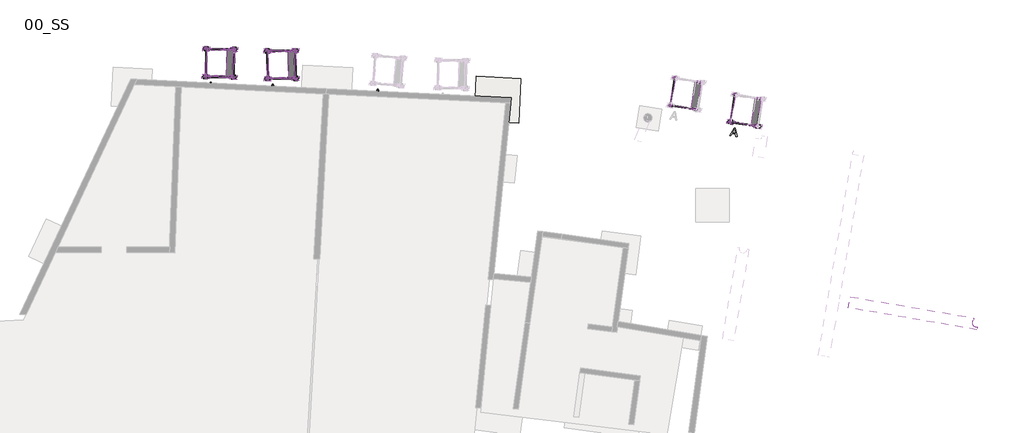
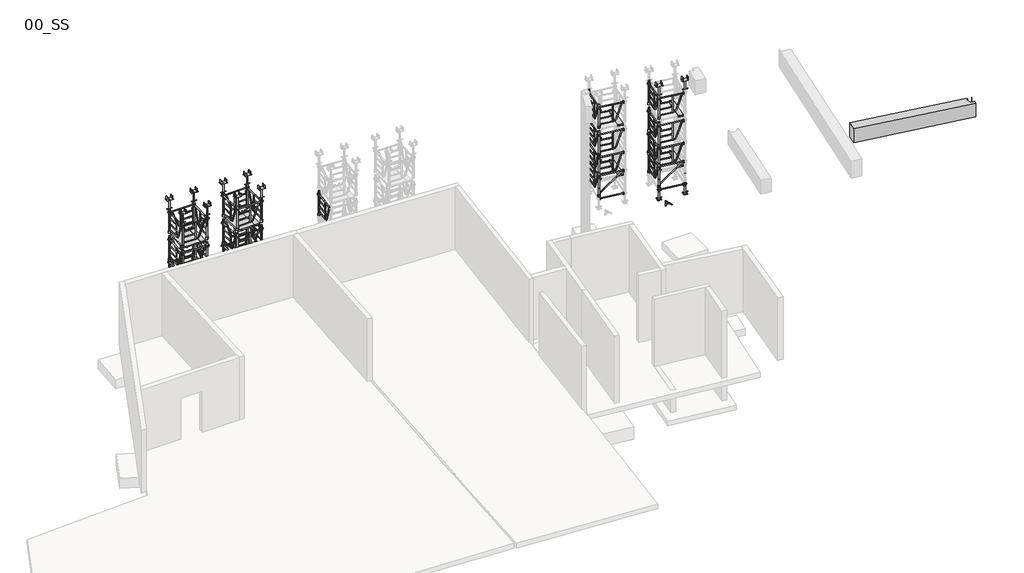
# One storey, part 3 of 4: 95 proxies, 1 beam, 1 slab.
"""IFC4 building model written with IfcOpenShell, lengths in millimetres."""

from ifc_helpers import new_model, si_unit, point, frame, frame_2d, origin, place, context, project, spatial, polyline, circle_curve, trimmed, segment, composite_curve, outline, extrude, transform, mapped, element, save
from components import specialty_equipment_552a99b2, specialty_equipment_3c7041e7, specialty_equipment_34e7ce4f, specialty_equipment_62a0565b, proxy_1_00m_e1a59707, proxy_1m_ea16eeb2, plancher_acier_0_25mx0_65m_c3080953, se_1_00mx1_00m_65cb5320

model = new_model("IFC4")

# Units and contexts
model_context = context("Model", 3, world=origin())
ifc_project = project(units=[si_unit("LENGTHUNIT", "METRE", prefix="MILLI")], contexts=[model_context])

# Site, building, storey
site = spatial("IfcSite", under=ifc_project)
building = spatial("IfcBuilding", under=site)
storey = spatial("IfcBuildingStorey", under=building, Name="00_SS", Elevation=18790.0)

# Beam
placement = place(None, origin())
element("IfcBeam", 1, ObjectType="Poutre_Rect_2013_JBE : 40x60ht", at=placement, inside=storey, context=model_context, shape_type="SweptSolid", body=[
    extrude(outline(composite_curve([segment(polyline([(23174.9182296, 8117.1072), (18565.8501525, 8907.7541322), (18633.4789682, 9301.9956106), (23045.3369678, 8545.1784115), (23071.6904398, 8497.1507794)]), True, "CONTINUOUS"), segment(trimmed(circle_curve(frame_2d((23153.3121622, 8371.3020828)), 150.0), [point((23071.6904398, 8497.1507794))], [point((23003.3121622, 8371.3020828))], True, "CARTESIAN"), True, "CONTINUOUS"), segment(trimmed(circle_curve(frame_2d((23153.3121622, 8371.3020828)), 150.0), [point((23003.3121622, 8371.3020828))], [point((23195.3612036, 8227.3163956))], True, "CARTESIAN"), True, "CONTINUOUS"), segment(polyline([(23195.3612036, 8227.3163956), (23174.9182296, 8117.1072)]), True, "CONTINUOUS")], self_intersect=False)), frame((0.0, 0.0, 23840.0), z_axis=(0.0, 0.0, 1.0), x_axis=(1.0, 0.0, 0.0)), (0.0, 0.0, 1.0), 600.0),
    extrude(outline(polyline([(23246.8050203, 8510.6182585), (23247.877437, 8510.4342944), (23247.632001, 8509.1111355), (23246.8050203, 8510.6182585)])), frame((0.0, 0.0, 23840.0), z_axis=(0.0, 0.0, 1.0), x_axis=(1.0, 0.0, 0.0)), (0.0, 0.0, 1.0), 600.0),
])

# Proxies
specialty_equipment_shape = specialty_equipment_552a99b2(model_context)
element("IfcBuildingElementProxy", 2, Name="MILLS_TOEC_CADRE_S : entree 1m", ObjectType="MILLS_TOEC_CADRE_S : entree 1m", at=placement, inside=storey, context=model_context, shape_type="MappedRepresentation", body=[
    mapped(specialty_equipment_shape, transform((15818.161755, 15343.9292714, 19371.6), x_axis=(0.987688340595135, -0.15643446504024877, 0.0), y_axis=(0.15643446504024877, 0.987688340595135, 0.0), z_axis=(0.0, 0.0, 1.0))),
])
element("IfcBuildingElementProxy", 3, Name="MILLS_TOEC_CADRE_S : entree 1m", ObjectType="MILLS_TOEC_CADRE_S : entree 1m", at=placement, inside=storey, context=model_context, shape_type="MappedRepresentation", body=[
    mapped(specialty_equipment_shape, transform((13662.8980879, 15937.50453, 19371.6), x_axis=(0.987688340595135, -0.15643446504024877, 0.0), y_axis=(0.15643446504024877, 0.987688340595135, 0.0), z_axis=(0.0, 0.0, 1.0))),
])
element("IfcBuildingElementProxy", 4, Name="MILLS_TOEC_CADRE_S : entree 1m", ObjectType="MILLS_TOEC_CADRE_S : entree 1m", at=placement, inside=storey, context=model_context, shape_type="MappedRepresentation", body=[
    mapped(specialty_equipment_shape, transform((-768.1071683, 17151.9537445, 19371.6), x_axis=(0.9999287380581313, 0.011938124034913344, 0.0), y_axis=(-0.011938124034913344, 0.9999287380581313, 0.0), z_axis=(0.0, 0.0, 1.0))),
])
element("IfcBuildingElementProxy", 5, Name="MILLS_TOEC_CADRE_S : entree 1m", ObjectType="MILLS_TOEC_CADRE_S : entree 1m", at=placement, inside=storey, context=model_context, shape_type="MappedRepresentation", body=[
    mapped(specialty_equipment_shape, transform((-2997.8105701, 17177.4940234, 19371.6), x_axis=(0.9997683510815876, -0.021523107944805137, 0.0), y_axis=(0.021523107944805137, 0.9997683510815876, 0.0), z_axis=(0.0, 0.0, 1.0))),
])
specialty_equipment_2_shape = specialty_equipment_3c7041e7(model_context)
element("IfcBuildingElementProxy", 6, Name="MILLS_TOEC_PLANCHER_TRAPPE_S : Trappe 1.0m", ObjectType="MILLS_TOEC_PLANCHER_TRAPPE_S : Trappe 1.0m", at=placement, inside=storey, context=model_context, shape_type="MappedRepresentation", body=[
    mapped(specialty_equipment_2_shape, transform((-2887.344941, 18127.2350135, 20033.6), x_axis=(-0.9999287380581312, -0.011938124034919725, 0.0), y_axis=(0.011938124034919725, -0.9999287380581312, 0.0), z_axis=(0.0, 0.0, 1.0))),
])
element("IfcBuildingElementProxy", 7, Name="MILLS_TOEC_PLANCHER_TRAPPE_S : Trappe 1.0m", ObjectType="MILLS_TOEC_PLANCHER_TRAPPE_S : Trappe 1.0m", at=placement, inside=storey, context=model_context, shape_type="MappedRepresentation", body=[
    mapped(specialty_equipment_2_shape, transform((-2887.344941, 18127.2350135, 22233.6), x_axis=(-0.9999287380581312, -0.011938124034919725, 0.0), y_axis=(0.011938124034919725, -0.9999287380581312, 0.0), z_axis=(0.0, 0.0, 1.0))),
])
element("IfcBuildingElementProxy", 8, Name="MILLS_TOEC_PLANCHER_TRAPPE_S : Trappe 1.0m", ObjectType="MILLS_TOEC_PLANCHER_TRAPPE_S : Trappe 1.0m", at=placement, inside=storey, context=model_context, shape_type="MappedRepresentation", body=[
    mapped(specialty_equipment_2_shape, transform((-5083.2319891, 18223.1324867, 20033.6), x_axis=(-0.9997683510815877, 0.021523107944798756, 0.0), y_axis=(-0.021523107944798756, -0.9997683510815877, 0.0), z_axis=(0.0, 0.0, 1.0))),
])
element("IfcBuildingElementProxy", 9, Name="MILLS_TOEC_PLANCHER_TRAPPE_S : Trappe 1.0m", ObjectType="MILLS_TOEC_PLANCHER_TRAPPE_S : Trappe 1.0m", at=placement, inside=storey, context=model_context, shape_type="MappedRepresentation", body=[
    mapped(specialty_equipment_2_shape, transform((-5083.2319891, 18223.1324867, 22233.6), x_axis=(-0.9997683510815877, 0.021523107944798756, 0.0), y_axis=(-0.021523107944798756, -0.9997683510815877, 0.0), z_axis=(0.0, 0.0, 1.0))),
])
specialty_equipment_3_shape = specialty_equipment_34e7ce4f(model_context)
element("IfcBuildingElementProxy", 10, Name="MILLS_TOEC_VERIN_DE_PIED_S : MILLS_TOEC_VERIN_DE_PIED", ObjectType="MILLS_TOEC_VERIN_DE_PIED_S : MILLS_TOEC_VERIN_DE_PIED", at=placement, inside=storey, context=model_context, shape_type="MappedRepresentation", body=[
    mapped(specialty_equipment_3_shape, transform((14434.6065663, 15563.5807533, 18790.0), x_axis=(0.987688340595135, -0.15643446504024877, 0.0), y_axis=(0.15643446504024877, 0.987688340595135, 0.0), z_axis=(0.0, 0.0, 1.0))),
])
element("IfcBuildingElementProxy", 11, Name="MILLS_TOEC_VERIN_DE_PIED_S : MILLS_TOEC_VERIN_DE_PIED", ObjectType="MILLS_TOEC_VERIN_DE_PIED_S : MILLS_TOEC_VERIN_DE_PIED", at=placement, inside=storey, context=model_context, shape_type="MappedRepresentation", body=[
    mapped(specialty_equipment_3_shape, transform((15422.2949069, 15407.1462883, 18790.0), x_axis=(0.987688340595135, -0.15643446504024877, 0.0), y_axis=(0.15643446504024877, 0.987688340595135, 0.0), z_axis=(0.0, 0.0, 1.0))),
])
element("IfcBuildingElementProxy", 12, Name="MILLS_TOEC_VERIN_DE_PIED_S : MILLS_TOEC_VERIN_DE_PIED", ObjectType="MILLS_TOEC_VERIN_DE_PIED_S : MILLS_TOEC_VERIN_DE_PIED", at=placement, inside=storey, context=model_context, shape_type="MappedRepresentation", body=[
    mapped(specialty_equipment_3_shape, transform((-2168.8958355, 17135.7412922, 18790.0), x_axis=(0.9999287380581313, 0.011938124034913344, 0.0), y_axis=(-0.011938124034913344, 0.9999287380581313, 0.0), z_axis=(0.0, 0.0, 1.0))),
])
element("IfcBuildingElementProxy", 13, Name="MILLS_TOEC_VERIN_DE_PIED_S : MILLS_TOEC_VERIN_DE_PIED", ObjectType="MILLS_TOEC_VERIN_DE_PIED_S : MILLS_TOEC_VERIN_DE_PIED", at=placement, inside=storey, context=model_context, shape_type="MappedRepresentation", body=[
    mapped(specialty_equipment_3_shape, transform((-1168.9670974, 17147.6794163, 18790.0), x_axis=(0.9999287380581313, 0.011938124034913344, 0.0), y_axis=(-0.011938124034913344, 0.9999287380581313, 0.0), z_axis=(0.0, 0.0, 1.0))),
])
element("IfcBuildingElementProxy", 14, Name="MILLS_TOEC_VERIN_DE_PIED_S : MILLS_TOEC_VERIN_DE_PIED", ObjectType="MILLS_TOEC_VERIN_DE_PIED_S : MILLS_TOEC_VERIN_DE_PIED", at=placement, inside=storey, context=model_context, shape_type="MappedRepresentation", body=[
    mapped(specialty_equipment_3_shape, transform((-2180.8339595, 18135.6700303, 18790.0), x_axis=(0.9999287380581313, 0.011938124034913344, 0.0), y_axis=(-0.011938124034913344, 0.9999287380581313, 0.0), z_axis=(0.0, 0.0, 1.0))),
])
element("IfcBuildingElementProxy", 15, Name="MILLS_TOEC_VERIN_DE_PIED_S : MILLS_TOEC_VERIN_DE_PIED", ObjectType="MILLS_TOEC_VERIN_DE_PIED_S : MILLS_TOEC_VERIN_DE_PIED", at=placement, inside=storey, context=model_context, shape_type="MappedRepresentation", body=[
    mapped(specialty_equipment_3_shape, transform((-1180.9052215, 18147.6081543, 18790.0), x_axis=(0.9999287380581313, 0.011938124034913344, 0.0), y_axis=(-0.011938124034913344, 0.9999287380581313, 0.0), z_axis=(0.0, 0.0, 1.0))),
])
element("IfcBuildingElementProxy", 16, Name="MILLS_TOEC_VERIN_DE_PIED_S : MILLS_TOEC_VERIN_DE_PIED", ObjectType="MILLS_TOEC_VERIN_DE_PIED_S : MILLS_TOEC_VERIN_DE_PIED", at=placement, inside=storey, context=model_context, shape_type="MappedRepresentation", body=[
    mapped(specialty_equipment_3_shape, transform((-4398.3574389, 17208.1567398, 18790.0), x_axis=(0.9997683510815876, -0.021523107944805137, 0.0), y_axis=(0.021523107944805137, 0.9997683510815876, 0.0), z_axis=(0.0, 0.0, 1.0))),
])
element("IfcBuildingElementProxy", 17, Name="MILLS_TOEC_VERIN_DE_PIED_S : MILLS_TOEC_VERIN_DE_PIED", ObjectType="MILLS_TOEC_VERIN_DE_PIED_S : MILLS_TOEC_VERIN_DE_PIED", at=placement, inside=storey, context=model_context, shape_type="MappedRepresentation", body=[
    mapped(specialty_equipment_3_shape, transform((-3398.5890878, 17186.6336318, 18790.0), x_axis=(0.9997683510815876, -0.021523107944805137, 0.0), y_axis=(0.021523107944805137, 0.9997683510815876, 0.0), z_axis=(0.0, 0.0, 1.0))),
])
element("IfcBuildingElementProxy", 18, Name="MILLS_TOEC_VERIN_DE_PIED_S : MILLS_TOEC_VERIN_DE_PIED", ObjectType="MILLS_TOEC_VERIN_DE_PIED_S : MILLS_TOEC_VERIN_DE_PIED", at=placement, inside=storey, context=model_context, shape_type="MappedRepresentation", body=[
    mapped(specialty_equipment_3_shape, transform((-4376.8343309, 18207.9250908, 18790.0), x_axis=(0.9997683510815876, -0.021523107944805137, 0.0), y_axis=(0.021523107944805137, 0.9997683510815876, 0.0), z_axis=(0.0, 0.0, 1.0))),
])
element("IfcBuildingElementProxy", 19, Name="MILLS_TOEC_VERIN_DE_PIED_S : MILLS_TOEC_VERIN_DE_PIED", ObjectType="MILLS_TOEC_VERIN_DE_PIED_S : MILLS_TOEC_VERIN_DE_PIED", at=placement, inside=storey, context=model_context, shape_type="MappedRepresentation", body=[
    mapped(specialty_equipment_3_shape, transform((-3377.0659798, 18186.4019829, 18790.0), x_axis=(0.9997683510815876, -0.021523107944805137, 0.0), y_axis=(0.021523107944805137, 0.9997683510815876, 0.0), z_axis=(0.0, 0.0, 1.0))),
])
specialty_equipment_4_shape = specialty_equipment_62a0565b(model_context)
element("IfcBuildingElementProxy", 20, Name="MILLS_TOEC_VERIN_DE_TETE_2_ENTREES_S : MILLS_TOEC_VERIN_DE_TETE_2_ENTREES_S", ObjectType="MILLS_TOEC_VERIN_DE_TETE_2_ENTREES_S : MILLS_TOEC_VERIN_DE_TETE_2_ENTREES_S", at=placement, inside=storey, context=model_context, shape_type="MappedRepresentation", body=[
    mapped(specialty_equipment_4_shape, transform((14434.6065663, 15563.5807533, 23532.0), x_axis=(0.987688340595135, -0.15643446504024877, 0.0), y_axis=(0.15643446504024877, 0.987688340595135, 0.0), z_axis=(0.0, 0.0, 1.0))),
])
element("IfcBuildingElementProxy", 21, Name="MILLS_TOEC_VERIN_DE_TETE_2_ENTREES_S : MILLS_TOEC_VERIN_DE_TETE_2_ENTREES_S", ObjectType="MILLS_TOEC_VERIN_DE_TETE_2_ENTREES_S : MILLS_TOEC_VERIN_DE_TETE_2_ENTREES_S", at=placement, inside=storey, context=model_context, shape_type="MappedRepresentation", body=[
    mapped(specialty_equipment_4_shape, transform((15422.2949069, 15407.1462883, 23532.0), x_axis=(0.987688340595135, -0.15643446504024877, 0.0), y_axis=(0.15643446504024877, 0.987688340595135, 0.0), z_axis=(0.0, 0.0, 1.0))),
])
element("IfcBuildingElementProxy", 22, Name="MILLS_TOEC_VERIN_DE_TETE_2_ENTREES_S : MILLS_TOEC_VERIN_DE_TETE_2_ENTREES_S", ObjectType="MILLS_TOEC_VERIN_DE_TETE_2_ENTREES_S : MILLS_TOEC_VERIN_DE_TETE_2_ENTREES_S", at=placement, inside=storey, context=model_context, shape_type="MappedRepresentation", body=[
    mapped(specialty_equipment_4_shape, transform((-2168.8958355, 17135.7412922, 23532.0), x_axis=(0.9999287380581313, 0.011938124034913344, 0.0), y_axis=(-0.011938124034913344, 0.9999287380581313, 0.0), z_axis=(0.0, 0.0, 1.0))),
])
element("IfcBuildingElementProxy", 23, Name="MILLS_TOEC_VERIN_DE_TETE_2_ENTREES_S : MILLS_TOEC_VERIN_DE_TETE_2_ENTREES_S", ObjectType="MILLS_TOEC_VERIN_DE_TETE_2_ENTREES_S : MILLS_TOEC_VERIN_DE_TETE_2_ENTREES_S", at=placement, inside=storey, context=model_context, shape_type="MappedRepresentation", body=[
    mapped(specialty_equipment_4_shape, transform((-1168.9670974, 17147.6794163, 23532.0), x_axis=(0.9999287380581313, 0.011938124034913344, 0.0), y_axis=(-0.011938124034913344, 0.9999287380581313, 0.0), z_axis=(0.0, 0.0, 1.0))),
])
element("IfcBuildingElementProxy", 24, Name="MILLS_TOEC_VERIN_DE_TETE_2_ENTREES_S : MILLS_TOEC_VERIN_DE_TETE_2_ENTREES_S", ObjectType="MILLS_TOEC_VERIN_DE_TETE_2_ENTREES_S : MILLS_TOEC_VERIN_DE_TETE_2_ENTREES_S", at=placement, inside=storey, context=model_context, shape_type="MappedRepresentation", body=[
    mapped(specialty_equipment_4_shape, transform((-2180.8339595, 18135.6700303, 23532.0), x_axis=(0.9999287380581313, 0.011938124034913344, 0.0), y_axis=(-0.011938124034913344, 0.9999287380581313, 0.0), z_axis=(0.0, 0.0, 1.0))),
])
element("IfcBuildingElementProxy", 25, Name="MILLS_TOEC_VERIN_DE_TETE_2_ENTREES_S : MILLS_TOEC_VERIN_DE_TETE_2_ENTREES_S", ObjectType="MILLS_TOEC_VERIN_DE_TETE_2_ENTREES_S : MILLS_TOEC_VERIN_DE_TETE_2_ENTREES_S", at=placement, inside=storey, context=model_context, shape_type="MappedRepresentation", body=[
    mapped(specialty_equipment_4_shape, transform((-1180.9052215, 18147.6081543, 23532.0), x_axis=(0.9999287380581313, 0.011938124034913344, 0.0), y_axis=(-0.011938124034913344, 0.9999287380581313, 0.0), z_axis=(0.0, 0.0, 1.0))),
])
element("IfcBuildingElementProxy", 26, Name="MILLS_TOEC_VERIN_DE_TETE_2_ENTREES_S : MILLS_TOEC_VERIN_DE_TETE_2_ENTREES_S", ObjectType="MILLS_TOEC_VERIN_DE_TETE_2_ENTREES_S : MILLS_TOEC_VERIN_DE_TETE_2_ENTREES_S", at=placement, inside=storey, context=model_context, shape_type="MappedRepresentation", body=[
    mapped(specialty_equipment_4_shape, transform((-4398.3574389, 17208.1567398, 23532.0), x_axis=(0.9997683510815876, -0.021523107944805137, 0.0), y_axis=(0.021523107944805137, 0.9997683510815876, 0.0), z_axis=(0.0, 0.0, 1.0))),
])
element("IfcBuildingElementProxy", 27, Name="MILLS_TOEC_VERIN_DE_TETE_2_ENTREES_S : MILLS_TOEC_VERIN_DE_TETE_2_ENTREES_S", ObjectType="MILLS_TOEC_VERIN_DE_TETE_2_ENTREES_S : MILLS_TOEC_VERIN_DE_TETE_2_ENTREES_S", at=placement, inside=storey, context=model_context, shape_type="MappedRepresentation", body=[
    mapped(specialty_equipment_4_shape, transform((-3398.5890878, 17186.6336318, 23532.0), x_axis=(0.9997683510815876, -0.021523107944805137, 0.0), y_axis=(0.021523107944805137, 0.9997683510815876, 0.0), z_axis=(0.0, 0.0, 1.0))),
])
element("IfcBuildingElementProxy", 28, Name="MILLS_TOEC_VERIN_DE_TETE_2_ENTREES_S : MILLS_TOEC_VERIN_DE_TETE_2_ENTREES_S", ObjectType="MILLS_TOEC_VERIN_DE_TETE_2_ENTREES_S : MILLS_TOEC_VERIN_DE_TETE_2_ENTREES_S", at=placement, inside=storey, context=model_context, shape_type="MappedRepresentation", body=[
    mapped(specialty_equipment_4_shape, transform((-4376.8343309, 18207.9250908, 23532.0), x_axis=(0.9997683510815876, -0.021523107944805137, 0.0), y_axis=(0.021523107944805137, 0.9997683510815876, 0.0), z_axis=(0.0, 0.0, 1.0))),
])
element("IfcBuildingElementProxy", 29, Name="MILLS_TOEC_VERIN_DE_TETE_2_ENTREES_S : MILLS_TOEC_VERIN_DE_TETE_2_ENTREES_S", ObjectType="MILLS_TOEC_VERIN_DE_TETE_2_ENTREES_S : MILLS_TOEC_VERIN_DE_TETE_2_ENTREES_S", at=placement, inside=storey, context=model_context, shape_type="MappedRepresentation", body=[
    mapped(specialty_equipment_4_shape, transform((-3377.0659798, 18186.4019829, 23532.0), x_axis=(0.9997683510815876, -0.021523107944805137, 0.0), y_axis=(0.021523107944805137, 0.9997683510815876, 0.0), z_axis=(0.0, 0.0, 1.0))),
])
proxy_1_00m_shape = proxy_1_00m_e1a59707(model_context)
element("IfcBuildingElementProxy", 30, Name="MILLS_TOEC_MOISE_S : 1.00m", ObjectType="MILLS_TOEC_MOISE_S : 1.00m", at=placement, inside=storey, context=model_context, shape_type="MappedRepresentation", body=[
    mapped(proxy_1_00m_shape, transform((15818.24177, 15344.434466, 19211.6), x_axis=(0.987688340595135, -0.15643446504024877, 0.0), y_axis=(0.15643446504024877, 0.987688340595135, 0.0), z_axis=(0.0, 0.0, 1.0))),
])
element("IfcBuildingElementProxy", 31, Name="MILLS_TOEC_MOISE_S : 1.00m", ObjectType="MILLS_TOEC_MOISE_S : 1.00m", at=placement, inside=storey, context=model_context, shape_type="MappedRepresentation", body=[
    mapped(proxy_1_00m_shape, transform((13662.9781029, 15938.0097247, 19211.6), x_axis=(0.987688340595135, -0.15643446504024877, 0.0), y_axis=(0.15643446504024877, 0.987688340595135, 0.0), z_axis=(0.0, 0.0, 1.0))),
])
element("IfcBuildingElementProxy", 32, Name="MILLS_TOEC_MOISE_S : 1.00m", ObjectType="MILLS_TOEC_MOISE_S : 1.00m", at=placement, inside=storey, context=model_context, shape_type="MappedRepresentation", body=[
    mapped(proxy_1_00m_shape, transform((-768.1132745, 17152.4652, 19211.6), x_axis=(0.9999287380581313, 0.011938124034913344, 0.0), y_axis=(-0.011938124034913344, 0.9999287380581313, 0.0), z_axis=(0.0, 0.0, 1.0))),
])
element("IfcBuildingElementProxy", 33, Name="MILLS_TOEC_MOISE_S : 1.00m", ObjectType="MILLS_TOEC_MOISE_S : 1.00m", at=placement, inside=storey, context=model_context, shape_type="MappedRepresentation", body=[
    mapped(proxy_1_00m_shape, transform((-780.0513986, 18152.393938, 19211.6), x_axis=(0.9999287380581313, 0.011938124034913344, 0.0), y_axis=(-0.011938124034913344, 0.9999287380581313, 0.0), z_axis=(0.0, 0.0, 1.0))),
])
element("IfcBuildingElementProxy", 34, Name="MILLS_TOEC_MOISE_S : 1.00m", ObjectType="MILLS_TOEC_MOISE_S : 1.00m", at=placement, inside=storey, context=model_context, shape_type="MappedRepresentation", body=[
    mapped(proxy_1_00m_shape, transform((-2292.5210213, 18640.9026636, 19211.6), x_axis=(-0.011938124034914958, 0.9999287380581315, 0.0), y_axis=(-0.9999287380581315, -0.011938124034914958, 0.0), z_axis=(0.0, 0.0, 1.0))),
])
element("IfcBuildingElementProxy", 35, Name="MILLS_TOEC_MOISE_S : 1.00m", ObjectType="MILLS_TOEC_MOISE_S : 1.00m", at=placement, inside=storey, context=model_context, shape_type="MappedRepresentation", body=[
    mapped(proxy_1_00m_shape, transform((-1292.5922833, 18652.8407876, 19211.6), x_axis=(-0.011938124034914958, 0.9999287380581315, 0.0), y_axis=(-0.9999287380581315, -0.011938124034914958, 0.0), z_axis=(0.0, 0.0, 1.0))),
])
element("IfcBuildingElementProxy", 36, Name="MILLS_TOEC_MOISE_S : 1.00m", ObjectType="MILLS_TOEC_MOISE_S : 1.00m", at=placement, inside=storey, context=model_context, shape_type="MappedRepresentation", body=[
    mapped(proxy_1_00m_shape, transform((-2997.7995612, 17178.0053968, 19211.6), x_axis=(0.9997683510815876, -0.021523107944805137, 0.0), y_axis=(0.021523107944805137, 0.9997683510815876, 0.0), z_axis=(0.0, 0.0, 1.0))),
])
element("IfcBuildingElementProxy", 37, Name="MILLS_TOEC_MOISE_S : 1.00m", ObjectType="MILLS_TOEC_MOISE_S : 1.00m", at=placement, inside=storey, context=model_context, shape_type="MappedRepresentation", body=[
    mapped(proxy_1_00m_shape, transform((-2976.2764532, 18177.7737479, 19211.6), x_axis=(0.9997683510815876, -0.021523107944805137, 0.0), y_axis=(0.021523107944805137, 0.9997683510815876, 0.0), z_axis=(0.0, 0.0, 1.0))),
])
element("IfcBuildingElementProxy", 38, Name="MILLS_TOEC_MOISE_S : 1.00m", ObjectType="MILLS_TOEC_MOISE_S : 1.00m", at=placement, inside=storey, context=model_context, shape_type="MappedRepresentation", body=[
    mapped(proxy_1_00m_shape, transform((-4471.5553316, 18716.6115813, 19211.6), x_axis=(0.02152310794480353, 0.9997683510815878, 0.0), y_axis=(-0.9997683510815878, 0.02152310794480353, 0.0), z_axis=(0.0, 0.0, 1.0))),
])
element("IfcBuildingElementProxy", 39, Name="MILLS_TOEC_MOISE_S : 1.00m", ObjectType="MILLS_TOEC_MOISE_S : 1.00m", at=placement, inside=storey, context=model_context, shape_type="MappedRepresentation", body=[
    mapped(proxy_1_00m_shape, transform((-3471.7869805, 18695.0884734, 19211.6), x_axis=(0.02152310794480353, 0.9997683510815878, 0.0), y_axis=(-0.9997683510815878, 0.02152310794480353, 0.0), z_axis=(0.0, 0.0, 1.0))),
])
proxy_1m_shape = proxy_1m_ea16eeb2(model_context)
element("IfcBuildingElementProxy", 40, Name="MILLS_TOEC_CADRE_S : 1m", ObjectType="MILLS_TOEC_CADRE_S : 1m", at=placement, inside=storey, context=model_context, shape_type="MappedRepresentation", body=[
    mapped(proxy_1m_shape, transform((15818.161755, 15343.9292714, 21171.6), x_axis=(0.987688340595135, -0.15643446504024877, 0.0), y_axis=(0.15643446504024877, 0.987688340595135, 0.0), z_axis=(0.0, 0.0, 1.0))),
])
element("IfcBuildingElementProxy", 41, Name="MILLS_TOEC_CADRE_S : 1m", ObjectType="MILLS_TOEC_CADRE_S : 1m", at=placement, inside=storey, context=model_context, shape_type="MappedRepresentation", body=[
    mapped(proxy_1m_shape, transform((14250.5157518, 15079.8939508, 21171.6), x_axis=(-0.15643446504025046, -0.9876883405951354, 0.0), y_axis=(0.9876883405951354, -0.15643446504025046, 0.0), z_axis=(0.0, 0.0, 1.0))),
])
element("IfcBuildingElementProxy", 42, Name="MILLS_TOEC_CADRE_S : 1m", ObjectType="MILLS_TOEC_CADRE_S : 1m", at=placement, inside=storey, context=model_context, shape_type="MappedRepresentation", body=[
    mapped(proxy_1m_shape, transform((15818.161755, 15343.9292714, 20171.6), x_axis=(0.987688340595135, -0.15643446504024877, 0.0), y_axis=(0.15643446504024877, 0.987688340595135, 0.0), z_axis=(0.0, 0.0, 1.0))),
])
element("IfcBuildingElementProxy", 43, Name="MILLS_TOEC_CADRE_S : 1m", ObjectType="MILLS_TOEC_CADRE_S : 1m", at=placement, inside=storey, context=model_context, shape_type="MappedRepresentation", body=[
    mapped(proxy_1m_shape, transform((14250.5157518, 15079.8939508, 20171.6), x_axis=(-0.15643446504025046, -0.9876883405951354, 0.0), y_axis=(0.9876883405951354, -0.15643446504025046, 0.0), z_axis=(0.0, 0.0, 1.0))),
])
element("IfcBuildingElementProxy", 44, Name="MILLS_TOEC_CADRE_S : 1m", ObjectType="MILLS_TOEC_CADRE_S : 1m", at=placement, inside=storey, context=model_context, shape_type="MappedRepresentation", body=[
    mapped(proxy_1m_shape, transform((14250.5157518, 15079.8939508, 19371.6), x_axis=(-0.15643446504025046, -0.9876883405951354, 0.0), y_axis=(0.9876883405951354, -0.15643446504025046, 0.0), z_axis=(0.0, 0.0, 1.0))),
])
element("IfcBuildingElementProxy", 45, Name="MILLS_TOEC_CADRE_S : 1m", ObjectType="MILLS_TOEC_CADRE_S : 1m", at=placement, inside=storey, context=model_context, shape_type="MappedRepresentation", body=[
    mapped(proxy_1m_shape, transform((15818.161755, 15343.9292714, 22371.6), x_axis=(0.987688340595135, -0.15643446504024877, 0.0), y_axis=(0.15643446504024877, 0.987688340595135, 0.0), z_axis=(0.0, 0.0, 1.0))),
])
element("IfcBuildingElementProxy", 46, Name="MILLS_TOEC_CADRE_S : 1m", ObjectType="MILLS_TOEC_CADRE_S : 1m", at=placement, inside=storey, context=model_context, shape_type="MappedRepresentation", body=[
    mapped(proxy_1m_shape, transform((14250.5157518, 15079.8939508, 22371.6), x_axis=(-0.15643446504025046, -0.9876883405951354, 0.0), y_axis=(0.9876883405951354, -0.15643446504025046, 0.0), z_axis=(0.0, 0.0, 1.0))),
])
element("IfcBuildingElementProxy", 47, Name="MILLS_TOEC_CADRE_S : 1m", ObjectType="MILLS_TOEC_CADRE_S : 1m", at=placement, inside=storey, context=model_context, shape_type="MappedRepresentation", body=[
    mapped(proxy_1m_shape, transform((13662.8980879, 15937.50453, 21171.6), x_axis=(0.987688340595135, -0.15643446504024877, 0.0), y_axis=(0.15643446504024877, 0.987688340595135, 0.0), z_axis=(0.0, 0.0, 1.0))),
])
element("IfcBuildingElementProxy", 48, Name="MILLS_TOEC_CADRE_S : 1m", ObjectType="MILLS_TOEC_CADRE_S : 1m", at=placement, inside=storey, context=model_context, shape_type="MappedRepresentation", body=[
    mapped(proxy_1m_shape, transform((12095.2520847, 15673.4692095, 21171.6), x_axis=(-0.15643446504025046, -0.9876883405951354, 0.0), y_axis=(0.9876883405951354, -0.15643446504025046, 0.0), z_axis=(0.0, 0.0, 1.0))),
])
element("IfcBuildingElementProxy", 49, Name="MILLS_TOEC_CADRE_S : 1m", ObjectType="MILLS_TOEC_CADRE_S : 1m", at=placement, inside=storey, context=model_context, shape_type="MappedRepresentation", body=[
    mapped(proxy_1m_shape, transform((13662.8980879, 15937.50453, 20171.6), x_axis=(0.987688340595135, -0.15643446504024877, 0.0), y_axis=(0.15643446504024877, 0.987688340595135, 0.0), z_axis=(0.0, 0.0, 1.0))),
])
element("IfcBuildingElementProxy", 50, Name="MILLS_TOEC_CADRE_S : 1m", ObjectType="MILLS_TOEC_CADRE_S : 1m", at=placement, inside=storey, context=model_context, shape_type="MappedRepresentation", body=[
    mapped(proxy_1m_shape, transform((12095.2520847, 15673.4692095, 20171.6), x_axis=(-0.15643446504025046, -0.9876883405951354, 0.0), y_axis=(0.9876883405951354, -0.15643446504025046, 0.0), z_axis=(0.0, 0.0, 1.0))),
])
element("IfcBuildingElementProxy", 51, Name="MILLS_TOEC_CADRE_S : 1m", ObjectType="MILLS_TOEC_CADRE_S : 1m", at=placement, inside=storey, context=model_context, shape_type="MappedRepresentation", body=[
    mapped(proxy_1m_shape, transform((12095.2520847, 15673.4692095, 19371.6), x_axis=(-0.15643446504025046, -0.9876883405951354, 0.0), y_axis=(0.9876883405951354, -0.15643446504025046, 0.0), z_axis=(0.0, 0.0, 1.0))),
])
element("IfcBuildingElementProxy", 52, Name="MILLS_TOEC_CADRE_S : 1m", ObjectType="MILLS_TOEC_CADRE_S : 1m", at=placement, inside=storey, context=model_context, shape_type="MappedRepresentation", body=[
    mapped(proxy_1m_shape, transform((13662.8980879, 15937.50453, 22371.6), x_axis=(0.987688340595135, -0.15643446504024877, 0.0), y_axis=(0.15643446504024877, 0.987688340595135, 0.0), z_axis=(0.0, 0.0, 1.0))),
])
element("IfcBuildingElementProxy", 53, Name="MILLS_TOEC_CADRE_S : 1m", ObjectType="MILLS_TOEC_CADRE_S : 1m", at=placement, inside=storey, context=model_context, shape_type="MappedRepresentation", body=[
    mapped(proxy_1m_shape, transform((12095.2520847, 15673.4692095, 22371.6), x_axis=(-0.15643446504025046, -0.9876883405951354, 0.0), y_axis=(0.9876883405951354, -0.15643446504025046, 0.0), z_axis=(0.0, 0.0, 1.0))),
])
element("IfcBuildingElementProxy", 54, Name="MILLS_TOEC_CADRE_S : 1m", ObjectType="MILLS_TOEC_CADRE_S : 1m", at=placement, inside=storey, context=model_context, shape_type="MappedRepresentation", body=[
    mapped(proxy_1m_shape, transform((1457.5325625, 16465.6963923, 21171.6), x_axis=(-0.08715574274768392, -0.9961946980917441, 0.0), y_axis=(0.9961946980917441, -0.08715574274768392, 0.0), z_axis=(0.0, 0.0, 1.0))),
])
element("IfcBuildingElementProxy", 55, Name="MILLS_TOEC_CADRE_S : 1m", ObjectType="MILLS_TOEC_CADRE_S : 1m", at=placement, inside=storey, context=model_context, shape_type="MappedRepresentation", body=[
    mapped(proxy_1m_shape, transform((-768.1071683, 17151.9537445, 21171.6), x_axis=(0.9999287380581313, 0.011938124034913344, 0.0), y_axis=(-0.011938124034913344, 0.9999287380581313, 0.0), z_axis=(0.0, 0.0, 1.0))),
])
element("IfcBuildingElementProxy", 56, Name="MILLS_TOEC_CADRE_S : 1m", ObjectType="MILLS_TOEC_CADRE_S : 1m", at=placement, inside=storey, context=model_context, shape_type="MappedRepresentation", body=[
    mapped(proxy_1m_shape, transform((-1292.0808278, 18652.8468939, 21171.6), x_axis=(-0.011938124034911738, 0.9999287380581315, 0.0), y_axis=(-0.9999287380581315, -0.011938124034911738, 0.0), z_axis=(0.0, 0.0, 1.0))),
])
element("IfcBuildingElementProxy", 57, Name="MILLS_TOEC_CADRE_S : 1m", ObjectType="MILLS_TOEC_CADRE_S : 1m", at=placement, inside=storey, context=model_context, shape_type="MappedRepresentation", body=[
    mapped(proxy_1m_shape, transform((-2792.9739772, 18128.8732344, 21171.6), x_axis=(-0.9999287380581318, -0.01193812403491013, 0.0), y_axis=(0.01193812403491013, -0.9999287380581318, 0.0), z_axis=(0.0, 0.0, 1.0))),
])
element("IfcBuildingElementProxy", 58, Name="MILLS_TOEC_CADRE_S : 1m", ObjectType="MILLS_TOEC_CADRE_S : 1m", at=placement, inside=storey, context=model_context, shape_type="MappedRepresentation", body=[
    mapped(proxy_1m_shape, transform((-2269.0003177, 16627.980085, 21171.6), x_axis=(0.011938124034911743, -0.999928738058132, 0.0), y_axis=(0.999928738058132, 0.011938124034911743, 0.0), z_axis=(0.0, 0.0, 1.0))),
])
element("IfcBuildingElementProxy", 59, Name="MILLS_TOEC_CADRE_S : 1m", ObjectType="MILLS_TOEC_CADRE_S : 1m", at=placement, inside=storey, context=model_context, shape_type="MappedRepresentation", body=[
    mapped(proxy_1m_shape, transform((-768.1071683, 17151.9537445, 20171.6), x_axis=(0.9999287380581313, 0.011938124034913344, 0.0), y_axis=(-0.011938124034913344, 0.9999287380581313, 0.0), z_axis=(0.0, 0.0, 1.0))),
])
element("IfcBuildingElementProxy", 60, Name="MILLS_TOEC_CADRE_S : 1m", ObjectType="MILLS_TOEC_CADRE_S : 1m", at=placement, inside=storey, context=model_context, shape_type="MappedRepresentation", body=[
    mapped(proxy_1m_shape, transform((-1292.0808278, 18652.8468939, 20171.6), x_axis=(-0.011938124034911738, 0.9999287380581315, 0.0), y_axis=(-0.9999287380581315, -0.011938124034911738, 0.0), z_axis=(0.0, 0.0, 1.0))),
])
element("IfcBuildingElementProxy", 61, Name="MILLS_TOEC_CADRE_S : 1m", ObjectType="MILLS_TOEC_CADRE_S : 1m", at=placement, inside=storey, context=model_context, shape_type="MappedRepresentation", body=[
    mapped(proxy_1m_shape, transform((-2792.9739772, 18128.8732344, 20171.6), x_axis=(-0.9999287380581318, -0.01193812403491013, 0.0), y_axis=(0.01193812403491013, -0.9999287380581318, 0.0), z_axis=(0.0, 0.0, 1.0))),
])
element("IfcBuildingElementProxy", 62, Name="MILLS_TOEC_CADRE_S : 1m", ObjectType="MILLS_TOEC_CADRE_S : 1m", at=placement, inside=storey, context=model_context, shape_type="MappedRepresentation", body=[
    mapped(proxy_1m_shape, transform((-2269.0003177, 16627.980085, 20171.6), x_axis=(0.011938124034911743, -0.999928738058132, 0.0), y_axis=(0.999928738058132, 0.011938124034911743, 0.0), z_axis=(0.0, 0.0, 1.0))),
])
element("IfcBuildingElementProxy", 63, Name="MILLS_TOEC_CADRE_S : 1m", ObjectType="MILLS_TOEC_CADRE_S : 1m", at=placement, inside=storey, context=model_context, shape_type="MappedRepresentation", body=[
    mapped(proxy_1m_shape, transform((-1292.0808278, 18652.8468939, 19371.6), x_axis=(-0.011938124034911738, 0.9999287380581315, 0.0), y_axis=(-0.9999287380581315, -0.011938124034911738, 0.0), z_axis=(0.0, 0.0, 1.0))),
])
element("IfcBuildingElementProxy", 64, Name="MILLS_TOEC_CADRE_S : 1m", ObjectType="MILLS_TOEC_CADRE_S : 1m", at=placement, inside=storey, context=model_context, shape_type="MappedRepresentation", body=[
    mapped(proxy_1m_shape, transform((-2792.9739772, 18128.8732344, 19371.6), x_axis=(-0.9999287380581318, -0.01193812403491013, 0.0), y_axis=(0.01193812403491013, -0.9999287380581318, 0.0), z_axis=(0.0, 0.0, 1.0))),
])
element("IfcBuildingElementProxy", 65, Name="MILLS_TOEC_CADRE_S : 1m", ObjectType="MILLS_TOEC_CADRE_S : 1m", at=placement, inside=storey, context=model_context, shape_type="MappedRepresentation", body=[
    mapped(proxy_1m_shape, transform((-2269.0003177, 16627.980085, 19371.6), x_axis=(0.011938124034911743, -0.999928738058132, 0.0), y_axis=(0.999928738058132, 0.011938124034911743, 0.0), z_axis=(0.0, 0.0, 1.0))),
])
element("IfcBuildingElementProxy", 66, Name="MILLS_TOEC_CADRE_S : 1m", ObjectType="MILLS_TOEC_CADRE_S : 1m", at=placement, inside=storey, context=model_context, shape_type="MappedRepresentation", body=[
    mapped(proxy_1m_shape, transform((-768.1071683, 17151.9537445, 22371.6), x_axis=(0.9999287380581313, 0.011938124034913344, 0.0), y_axis=(-0.011938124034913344, 0.9999287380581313, 0.0), z_axis=(0.0, 0.0, 1.0))),
])
element("IfcBuildingElementProxy", 67, Name="MILLS_TOEC_CADRE_S : 1m", ObjectType="MILLS_TOEC_CADRE_S : 1m", at=placement, inside=storey, context=model_context, shape_type="MappedRepresentation", body=[
    mapped(proxy_1m_shape, transform((-1292.0808278, 18652.8468939, 22371.6), x_axis=(-0.011938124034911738, 0.9999287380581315, 0.0), y_axis=(-0.9999287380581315, -0.011938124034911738, 0.0), z_axis=(0.0, 0.0, 1.0))),
])
element("IfcBuildingElementProxy", 68, Name="MILLS_TOEC_CADRE_S : 1m", ObjectType="MILLS_TOEC_CADRE_S : 1m", at=placement, inside=storey, context=model_context, shape_type="MappedRepresentation", body=[
    mapped(proxy_1m_shape, transform((-2792.9739772, 18128.8732344, 22371.6), x_axis=(-0.9999287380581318, -0.01193812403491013, 0.0), y_axis=(0.01193812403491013, -0.9999287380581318, 0.0), z_axis=(0.0, 0.0, 1.0))),
])
element("IfcBuildingElementProxy", 69, Name="MILLS_TOEC_CADRE_S : 1m", ObjectType="MILLS_TOEC_CADRE_S : 1m", at=placement, inside=storey, context=model_context, shape_type="MappedRepresentation", body=[
    mapped(proxy_1m_shape, transform((-2269.0003177, 16627.980085, 22371.6), x_axis=(0.011938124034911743, -0.999928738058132, 0.0), y_axis=(0.999928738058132, 0.011938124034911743, 0.0), z_axis=(0.0, 0.0, 1.0))),
])
element("IfcBuildingElementProxy", 70, Name="MILLS_TOEC_CADRE_S : 1m", ObjectType="MILLS_TOEC_CADRE_S : 1m", at=placement, inside=storey, context=model_context, shape_type="MappedRepresentation", body=[
    mapped(proxy_1m_shape, transform((-2997.8105701, 17177.4940234, 21171.6), x_axis=(0.9997683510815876, -0.021523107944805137, 0.0), y_axis=(0.021523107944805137, 0.9997683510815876, 0.0), z_axis=(0.0, 0.0, 1.0))),
])
element("IfcBuildingElementProxy", 71, Name="MILLS_TOEC_CADRE_S : 1m", ObjectType="MILLS_TOEC_CADRE_S : 1m", at=placement, inside=storey, context=model_context, shape_type="MappedRepresentation", body=[
    mapped(proxy_1m_shape, transform((-3471.2756071, 18695.0774645, 21171.6), x_axis=(0.02152310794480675, 0.9997683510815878, 0.0), y_axis=(-0.9997683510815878, 0.02152310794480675, 0.0), z_axis=(0.0, 0.0, 1.0))),
])
element("IfcBuildingElementProxy", 72, Name="MILLS_TOEC_CADRE_S : 1m", ObjectType="MILLS_TOEC_CADRE_S : 1m", at=placement, inside=storey, context=model_context, shape_type="MappedRepresentation", body=[
    mapped(proxy_1m_shape, transform((-4988.8590481, 18221.6124275, 21171.6), x_axis=(-0.9997683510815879, 0.021523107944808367, 0.0), y_axis=(-0.021523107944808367, -0.9997683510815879, 0.0), z_axis=(0.0, 0.0, 1.0))),
])
element("IfcBuildingElementProxy", 73, Name="MILLS_TOEC_CADRE_S : 1m", ObjectType="MILLS_TOEC_CADRE_S : 1m", at=placement, inside=storey, context=model_context, shape_type="MappedRepresentation", body=[
    mapped(proxy_1m_shape, transform((-4515.3940112, 16704.0289864, 21171.6), x_axis=(-0.02152310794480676, -0.9997683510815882, 0.0), y_axis=(0.9997683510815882, -0.02152310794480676, 0.0), z_axis=(0.0, 0.0, 1.0))),
])
element("IfcBuildingElementProxy", 74, Name="MILLS_TOEC_CADRE_S : 1m", ObjectType="MILLS_TOEC_CADRE_S : 1m", at=placement, inside=storey, context=model_context, shape_type="MappedRepresentation", body=[
    mapped(proxy_1m_shape, transform((-2997.8105701, 17177.4940234, 20171.6), x_axis=(0.9997683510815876, -0.021523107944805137, 0.0), y_axis=(0.021523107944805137, 0.9997683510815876, 0.0), z_axis=(0.0, 0.0, 1.0))),
])
element("IfcBuildingElementProxy", 75, Name="MILLS_TOEC_CADRE_S : 1m", ObjectType="MILLS_TOEC_CADRE_S : 1m", at=placement, inside=storey, context=model_context, shape_type="MappedRepresentation", body=[
    mapped(proxy_1m_shape, transform((-3471.2756071, 18695.0774645, 20171.6), x_axis=(0.02152310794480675, 0.9997683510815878, 0.0), y_axis=(-0.9997683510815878, 0.02152310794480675, 0.0), z_axis=(0.0, 0.0, 1.0))),
])
element("IfcBuildingElementProxy", 76, Name="MILLS_TOEC_CADRE_S : 1m", ObjectType="MILLS_TOEC_CADRE_S : 1m", at=placement, inside=storey, context=model_context, shape_type="MappedRepresentation", body=[
    mapped(proxy_1m_shape, transform((-4988.8590481, 18221.6124275, 20171.6), x_axis=(-0.9997683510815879, 0.021523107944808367, 0.0), y_axis=(-0.021523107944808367, -0.9997683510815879, 0.0), z_axis=(0.0, 0.0, 1.0))),
])
element("IfcBuildingElementProxy", 77, Name="MILLS_TOEC_CADRE_S : 1m", ObjectType="MILLS_TOEC_CADRE_S : 1m", at=placement, inside=storey, context=model_context, shape_type="MappedRepresentation", body=[
    mapped(proxy_1m_shape, transform((-4515.3940112, 16704.0289864, 20171.6), x_axis=(-0.02152310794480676, -0.9997683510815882, 0.0), y_axis=(0.9997683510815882, -0.02152310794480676, 0.0), z_axis=(0.0, 0.0, 1.0))),
])
element("IfcBuildingElementProxy", 78, Name="MILLS_TOEC_CADRE_S : 1m", ObjectType="MILLS_TOEC_CADRE_S : 1m", at=placement, inside=storey, context=model_context, shape_type="MappedRepresentation", body=[
    mapped(proxy_1m_shape, transform((-3471.2756071, 18695.0774645, 19371.6), x_axis=(0.02152310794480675, 0.9997683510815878, 0.0), y_axis=(-0.9997683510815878, 0.02152310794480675, 0.0), z_axis=(0.0, 0.0, 1.0))),
])
element("IfcBuildingElementProxy", 79, Name="MILLS_TOEC_CADRE_S : 1m", ObjectType="MILLS_TOEC_CADRE_S : 1m", at=placement, inside=storey, context=model_context, shape_type="MappedRepresentation", body=[
    mapped(proxy_1m_shape, transform((-4988.8590481, 18221.6124275, 19371.6), x_axis=(-0.9997683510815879, 0.021523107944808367, 0.0), y_axis=(-0.021523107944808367, -0.9997683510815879, 0.0), z_axis=(0.0, 0.0, 1.0))),
])
element("IfcBuildingElementProxy", 80, Name="MILLS_TOEC_CADRE_S : 1m", ObjectType="MILLS_TOEC_CADRE_S : 1m", at=placement, inside=storey, context=model_context, shape_type="MappedRepresentation", body=[
    mapped(proxy_1m_shape, transform((-4515.3940112, 16704.0289864, 19371.6), x_axis=(-0.02152310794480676, -0.9997683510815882, 0.0), y_axis=(0.9997683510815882, -0.02152310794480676, 0.0), z_axis=(0.0, 0.0, 1.0))),
])
element("IfcBuildingElementProxy", 81, Name="MILLS_TOEC_CADRE_S : 1m", ObjectType="MILLS_TOEC_CADRE_S : 1m", at=placement, inside=storey, context=model_context, shape_type="MappedRepresentation", body=[
    mapped(proxy_1m_shape, transform((-2997.8105701, 17177.4940234, 22371.6), x_axis=(0.9997683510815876, -0.021523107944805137, 0.0), y_axis=(0.021523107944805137, 0.9997683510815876, 0.0), z_axis=(0.0, 0.0, 1.0))),
])
element("IfcBuildingElementProxy", 82, Name="MILLS_TOEC_CADRE_S : 1m", ObjectType="MILLS_TOEC_CADRE_S : 1m", at=placement, inside=storey, context=model_context, shape_type="MappedRepresentation", body=[
    mapped(proxy_1m_shape, transform((-3471.2756071, 18695.0774645, 22371.6), x_axis=(0.02152310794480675, 0.9997683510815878, 0.0), y_axis=(-0.9997683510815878, 0.02152310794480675, 0.0), z_axis=(0.0, 0.0, 1.0))),
])
element("IfcBuildingElementProxy", 83, Name="MILLS_TOEC_CADRE_S : 1m", ObjectType="MILLS_TOEC_CADRE_S : 1m", at=placement, inside=storey, context=model_context, shape_type="MappedRepresentation", body=[
    mapped(proxy_1m_shape, transform((-4988.8590481, 18221.6124275, 22371.6), x_axis=(-0.9997683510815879, 0.021523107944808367, 0.0), y_axis=(-0.021523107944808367, -0.9997683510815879, 0.0), z_axis=(0.0, 0.0, 1.0))),
])
element("IfcBuildingElementProxy", 84, Name="MILLS_TOEC_CADRE_S : 1m", ObjectType="MILLS_TOEC_CADRE_S : 1m", at=placement, inside=storey, context=model_context, shape_type="MappedRepresentation", body=[
    mapped(proxy_1m_shape, transform((-4515.3940112, 16704.0289864, 22371.6), x_axis=(-0.02152310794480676, -0.9997683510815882, 0.0), y_axis=(0.9997683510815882, -0.02152310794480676, 0.0), z_axis=(0.0, 0.0, 1.0))),
])
plancher_acier_0_25mx0_65m_shape = plancher_acier_0_25mx0_65m_c3080953(model_context)
element("IfcBuildingElementProxy", 85, Name="MILLS_TOEC_PANACIER_S : Plancher Acier 0.25mx0.65m", ObjectType="MILLS_TOEC_PANACIER_S : Plancher Acier 0.25mx0.65m", at=placement, inside=storey, context=model_context, shape_type="MappedRepresentation", body=[
    mapped(plancher_acier_0_25mx0_65m_shape, transform((15889.9047589, 15333.0841636, 20008.6), x_axis=(0.987688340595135, -0.15643446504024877, 0.0), y_axis=(0.15643446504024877, 0.987688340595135, 0.0), z_axis=(0.0, 0.0, 1.0))),
])
element("IfcBuildingElementProxy", 86, Name="MILLS_TOEC_PANACIER_S : Plancher Acier 0.25mx0.65m", ObjectType="MILLS_TOEC_PANACIER_S : Plancher Acier 0.25mx0.65m", at=placement, inside=storey, context=model_context, shape_type="MappedRepresentation", body=[
    mapped(plancher_acier_0_25mx0_65m_shape, transform((15889.9047589, 15333.0841636, 22208.6), x_axis=(0.987688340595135, -0.15643446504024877, 0.0), y_axis=(0.15643446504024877, 0.987688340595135, 0.0), z_axis=(0.0, 0.0, 1.0))),
])
element("IfcBuildingElementProxy", 87, Name="MILLS_TOEC_PANACIER_S : Plancher Acier 0.25mx0.65m", ObjectType="MILLS_TOEC_PANACIER_S : Plancher Acier 0.25mx0.65m", at=placement, inside=storey, context=model_context, shape_type="MappedRepresentation", body=[
    mapped(plancher_acier_0_25mx0_65m_shape, transform((13734.6410918, 15926.6594223, 20008.6), x_axis=(0.987688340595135, -0.15643446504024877, 0.0), y_axis=(0.15643446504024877, 0.987688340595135, 0.0), z_axis=(0.0, 0.0, 1.0))),
])
element("IfcBuildingElementProxy", 88, Name="MILLS_TOEC_PANACIER_S : Plancher Acier 0.25mx0.65m", ObjectType="MILLS_TOEC_PANACIER_S : Plancher Acier 0.25mx0.65m", at=placement, inside=storey, context=model_context, shape_type="MappedRepresentation", body=[
    mapped(plancher_acier_0_25mx0_65m_shape, transform((13734.6410918, 15926.6594223, 22208.6), x_axis=(0.987688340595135, -0.15643446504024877, 0.0), y_axis=(0.15643446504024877, 0.987688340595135, 0.0), z_axis=(0.0, 0.0, 1.0))),
])
element("IfcBuildingElementProxy", 89, Name="MILLS_TOEC_PANACIER_S : Plancher Acier 0.25mx0.65m", ObjectType="MILLS_TOEC_PANACIER_S : Plancher Acier 0.25mx0.65m", at=placement, inside=storey, context=model_context, shape_type="MappedRepresentation", body=[
    mapped(plancher_acier_0_25mx0_65m_shape, transform((-695.562168, 17153.3313858, 20008.6), x_axis=(0.9999287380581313, 0.011938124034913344, 0.0), y_axis=(-0.011938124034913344, 0.9999287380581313, 0.0), z_axis=(0.0, 0.0, 1.0))),
])
element("IfcBuildingElementProxy", 90, Name="MILLS_TOEC_PANACIER_S : Plancher Acier 0.25mx0.65m", ObjectType="MILLS_TOEC_PANACIER_S : Plancher Acier 0.25mx0.65m", at=placement, inside=storey, context=model_context, shape_type="MappedRepresentation", body=[
    mapped(plancher_acier_0_25mx0_65m_shape, transform((-695.562168, 17153.3313858, 22208.6), x_axis=(0.9999287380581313, 0.011938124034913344, 0.0), y_axis=(-0.011938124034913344, 0.9999287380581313, 0.0), z_axis=(0.0, 0.0, 1.0))),
])
element("IfcBuildingElementProxy", 91, Name="MILLS_TOEC_PANACIER_S : Plancher Acier 0.25mx0.65m", ObjectType="MILLS_TOEC_PANACIER_S : Plancher Acier 0.25mx0.65m", at=placement, inside=storey, context=model_context, shape_type="MappedRepresentation", body=[
    mapped(plancher_acier_0_25mx0_65m_shape, transform((-2925.2600917, 17176.4437603, 20008.6), x_axis=(0.9997683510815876, -0.021523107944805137, 0.0), y_axis=(0.021523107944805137, 0.9997683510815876, 0.0), z_axis=(0.0, 0.0, 1.0))),
])
element("IfcBuildingElementProxy", 92, Name="MILLS_TOEC_PANACIER_S : Plancher Acier 0.25mx0.65m", ObjectType="MILLS_TOEC_PANACIER_S : Plancher Acier 0.25mx0.65m", at=placement, inside=storey, context=model_context, shape_type="MappedRepresentation", body=[
    mapped(plancher_acier_0_25mx0_65m_shape, transform((-2925.2600917, 17176.4437603, 22208.6), x_axis=(0.9997683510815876, -0.021523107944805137, 0.0), y_axis=(0.021523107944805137, 0.9997683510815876, 0.0), z_axis=(0.0, 0.0, 1.0))),
])
se_1_00mx1_00m_shape = se_1_00mx1_00m_65cb5320(model_context)
element("IfcBuildingElementProxy", 93, Name="MILLS_DYN_TOEC_TOURECHAF : se_1.00mx1.00m", ObjectType="MILLS_DYN_TOEC_TOURECHAF : se_1.00mx1.00m", at=placement, inside=storey, context=model_context, shape_type="MappedRepresentation", body=[
    mapped(se_1_00mx1_00m_shape, transform((14434.6065663, 15563.5807533, 18790.0), x_axis=(0.987688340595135, -0.15643446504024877, 0.0), y_axis=(0.15643446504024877, 0.987688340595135, 0.0), z_axis=(0.0, 0.0, 1.0))),
])
element("IfcBuildingElementProxy", 94, Name="MILLS_DYN_TOEC_TOURECHAF : se_1.00mx1.00m", ObjectType="MILLS_DYN_TOEC_TOURECHAF : se_1.00mx1.00m", at=placement, inside=storey, context=model_context, shape_type="MappedRepresentation", body=[
    mapped(se_1_00mx1_00m_shape, transform((1607.4346552, 16961.0464842, 18790.0), x_axis=(0.9961946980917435, -0.08715574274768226, 0.0), y_axis=(0.08715574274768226, 0.9961946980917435, 0.0), z_axis=(0.0, 0.0, 1.0))),
])
element("IfcBuildingElementProxy", 95, Name="MILLS_DYN_TOEC_TOURECHAF : se_1.00mx1.00m", ObjectType="MILLS_DYN_TOEC_TOURECHAF : se_1.00mx1.00m", at=placement, inside=storey, context=model_context, shape_type="MappedRepresentation", body=[
    mapped(se_1_00mx1_00m_shape, transform((-2168.8958355, 17135.7412922, 18790.0), x_axis=(0.9999287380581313, 0.011938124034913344, 0.0), y_axis=(-0.011938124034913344, 0.9999287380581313, 0.0), z_axis=(0.0, 0.0, 1.0))),
])
element("IfcBuildingElementProxy", 96, Name="MILLS_DYN_TOEC_TOURECHAF : se_1.00mx1.00m", ObjectType="MILLS_DYN_TOEC_TOURECHAF : se_1.00mx1.00m", at=placement, inside=storey, context=model_context, shape_type="MappedRepresentation", body=[
    mapped(se_1_00mx1_00m_shape, transform((-4398.3574389, 17208.1567398, 18790.0), x_axis=(0.9997683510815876, -0.021523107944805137, 0.0), y_axis=(0.021523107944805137, 0.9997683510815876, 0.0), z_axis=(0.0, 0.0, 1.0))),
])

# Slab
element("IfcSlab", 97, ObjectType="Base rectangulaire : 160x160x50 cm", at=placement, inside=storey, context=model_context, shape_type="SweptSolid", body=[
    extrude(outline(polyline([(5133.3935605, 15626.3582309), (5210.8333374, 17224.4830949), (6808.9582014, 17147.043318), (6731.5184245, 15548.918454), (5133.3935605, 15626.3582309)])), frame((0.0, 0.0, 17990.0), z_axis=(0.0, 0.0, 1.0), x_axis=(1.0, 0.0, 0.0)), (0.0, 0.0, 1.0), 500.0),
    extrude(outline(polyline([(5133.3935605, 15626.3582309), (5210.8333374, 17224.4830949), (6808.9582014, 17147.043318), (6731.5184245, 15548.918454), (5133.3935605, 15626.3582309)])), frame((0.0, 0.0, 17990.0), z_axis=(0.0, 0.0, 1.0), x_axis=(1.0, 0.0, 0.0)), (0.0, 0.0, 1.0), 500.0),
])

save(model, "model.ifc")
